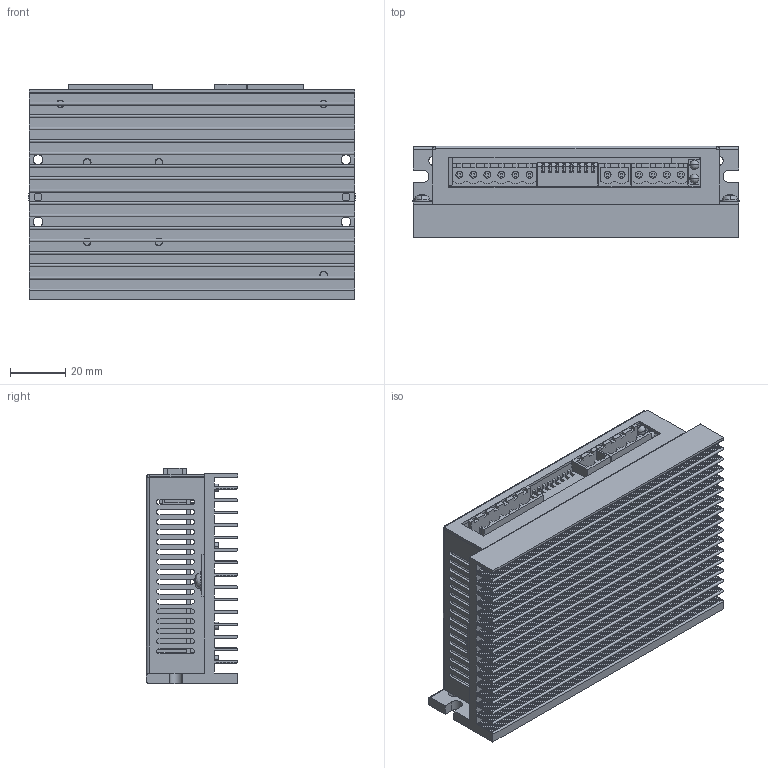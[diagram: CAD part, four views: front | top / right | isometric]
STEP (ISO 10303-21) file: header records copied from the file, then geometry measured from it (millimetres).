
FILE_DESCRIPTION((''),'2;1');
FILE_NAME('0-YKD2305M_ASM','2021-11-05T20:39:33',('Admin'),(''),'CREO PARAMETRIC BY PTC INC, 2020074','CREO PARAMETRIC BY PTC INC, 2020074','');
FILE_SCHEMA(('CONFIG_CONTROL_DESIGN','SHAPE_APPEARANCE_LAYERS_GROUPS'));
Products named in the file (1): 0-YKD2305M_ASM
Bounding box: 118.5 x 33 x 77.89 mm (x, y, z)
Volume: 77525 mm3; surface area: 106789.9 mm2
Topology: 2 solids, 28 shells, 1679 faces, 4677 edges, 3060 vertices
Faces by surface type: cylinder 875, plane 744, cone 48, sphere 8, bspline 4
Entity records: 66952 total; most frequent: CARTESIAN_POINT 10504, DIRECTION 9761, ORIENTED_EDGE 9254, EDGE_CURVE 4669, AXIS2_PLACEMENT_3D 3582, VERTEX_POINT 3060, VECTOR 2597, LINE 2597
